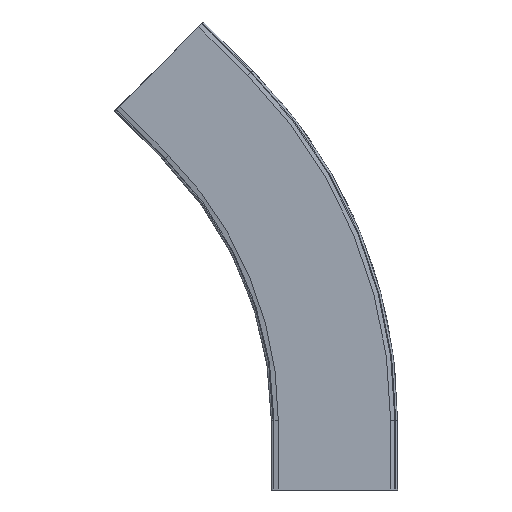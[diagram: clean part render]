
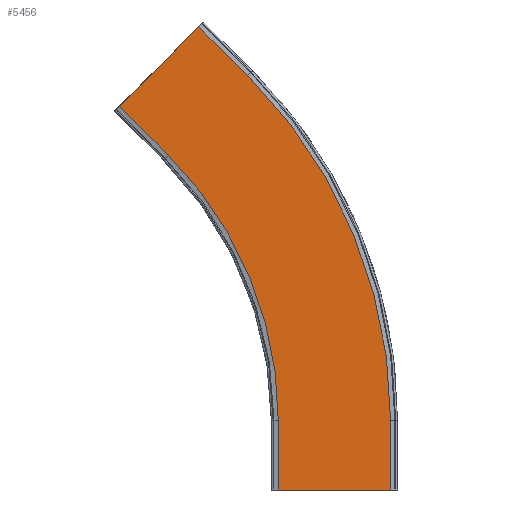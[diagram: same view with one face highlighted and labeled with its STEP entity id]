
A CAD part, front view. The second image highlights one B-rep face of the part: STEP entity #5456.
In plain terms, the highlighted planar face has unit normal (0, -1, 0).
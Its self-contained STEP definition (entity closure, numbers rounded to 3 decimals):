
#5213=CARTESIAN_POINT('',(104.,-74.,0.0));
#5214=VERTEX_POINT('',#5213);
#5221=CARTESIAN_POINT('',(-26.,-74.,0.0));
#5222=VERTEX_POINT('',#5221);
#5223=CARTESIAN_POINT('',(-26.,-74.,0.0));
#5224=DIRECTION('',(1.0,0.0,0.0));
#5225=VECTOR('',#5224,130.);
#5226=LINE('',#5223,#5225);
#5227=EDGE_CURVE('',#5222,#5214,#5226,.T.);
#5282=CARTESIAN_POINT('',(-26.,-74.,80.0));
#5283=VERTEX_POINT('',#5282);
#5292=CARTESIAN_POINT('',(-26.,-74.,0.0));
#5293=DIRECTION('',(0.0,0.0,1.0));
#5294=VECTOR('',#5293,80.0);
#5295=LINE('',#5292,#5294);
#5296=EDGE_CURVE('',#5222,#5283,#5295,.T.);
#5306=CARTESIAN_POINT('',(104.,-74.,80.0));
#5307=VERTEX_POINT('',#5306);
#5316=CARTESIAN_POINT('',(104.,-74.,0.0));
#5317=DIRECTION('',(0.0,0.0,1.0));
#5318=VECTOR('',#5317,80.0);
#5319=LINE('',#5316,#5318);
#5320=EDGE_CURVE('',#5214,#5307,#5319,.T.);
#5339=CARTESIAN_POINT('',(-153.409,-74.,387.591));
#5340=VERTEX_POINT('',#5339);
#5355=CARTESIAN_POINT('',(-461.,-74.,80.0));
#5356=DIRECTION('',(0.0,-1.0,0.0));
#5357=DIRECTION('',(1.0,0.0,0.0));
#5358=AXIS2_PLACEMENT_3D('',#5355,#5356,#5357);
#5359=CIRCLE('',#5358,435.);
#5360=EDGE_CURVE('',#5283,#5340,#5359,.T.);
#5414=CARTESIAN_POINT('',(272.764,-74.,145.267));
#5415=DIRECTION('',(0.0,-1.0,0.0));
#5416=DIRECTION('',(0.707,0.0,-0.707));
#5417=AXIS2_PLACEMENT_3D('',#5414,#5415,#5416);
#5418=PLANE('',#5417);
#5419=CARTESIAN_POINT('',(-118.053,-74.,536.084));
#5420=VERTEX_POINT('',#5419);
#5421=CARTESIAN_POINT('',(-209.977,-74.,444.16));
#5422=VERTEX_POINT('',#5421);
#5423=CARTESIAN_POINT('',(-118.053,-74.,536.084));
#5424=DIRECTION('',(-0.707,0.,-0.707));
#5425=VECTOR('',#5424,130.);
#5426=LINE('',#5423,#5425);
#5427=EDGE_CURVE('',#5420,#5422,#5426,.T.);
#5428=ORIENTED_EDGE('',*,*,#5427,.T.);
#5429=CARTESIAN_POINT('',(-153.409,-74.,387.591));
#5430=DIRECTION('',(-0.707,0.0,0.707));
#5431=VECTOR('',#5430,80.0);
#5432=LINE('',#5429,#5431);
#5433=EDGE_CURVE('',#5340,#5422,#5432,.T.);
#5434=ORIENTED_EDGE('',*,*,#5433,.F.);
#5435=ORIENTED_EDGE('',*,*,#5360,.F.);
#5436=ORIENTED_EDGE('',*,*,#5296,.F.);
#5437=ORIENTED_EDGE('',*,*,#5227,.T.);
#5438=ORIENTED_EDGE('',*,*,#5320,.T.);
#5439=CARTESIAN_POINT('',(-61.485,-74.,479.515));
#5440=VERTEX_POINT('',#5439);
#5441=CARTESIAN_POINT('',(-461.,-74.,80.0));
#5442=DIRECTION('',(0.0,-1.0,0.0));
#5443=DIRECTION('',(1.0,0.0,0.0));
#5444=AXIS2_PLACEMENT_3D('',#5441,#5442,#5443);
#5445=CIRCLE('',#5444,565.);
#5446=EDGE_CURVE('',#5307,#5440,#5445,.T.);
#5447=ORIENTED_EDGE('',*,*,#5446,.T.);
#5448=CARTESIAN_POINT('',(-61.485,-74.,479.515));
#5449=DIRECTION('',(-0.707,0.0,0.707));
#5450=VECTOR('',#5449,80.);
#5451=LINE('',#5448,#5450);
#5452=EDGE_CURVE('',#5440,#5420,#5451,.T.);
#5453=ORIENTED_EDGE('',*,*,#5452,.T.);
#5454=EDGE_LOOP('',(#5428,#5434,#5435,#5436,#5437,#5438,#5447,#5453));
#5455=FACE_OUTER_BOUND('',#5454,.T.);
#5456=ADVANCED_FACE('',(#5455),#5418,.T.);
